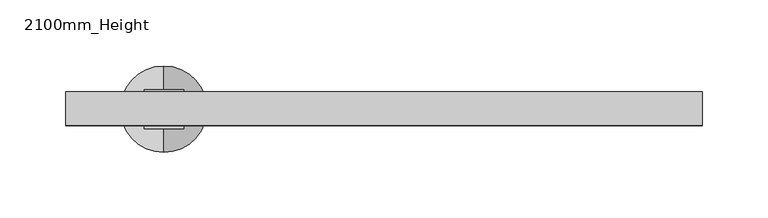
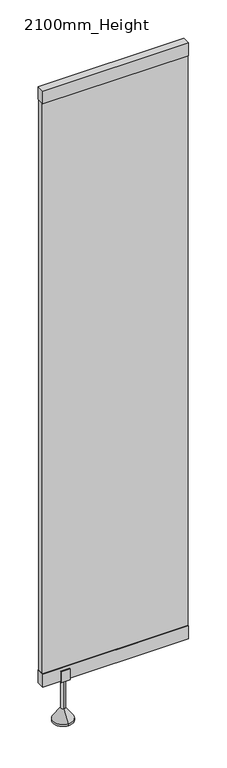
"""IFC4 building model written with IfcOpenShell, lengths in millimetres: flow terminal geometry, Plumbing_Fixtures_Toile_Cubicle_Extension_Panel : 2100mm_Height."""

from ifc_helpers import new_model, si_unit, frame, origin, place, context, project, spatial, polyline, circle_curve, outline, extrude, source, transform, mapped, element, save
from ifc_brep_helpers import plane_surface, cylinder_surface, revolved_surface, advanced_brep


def flow_terminal_2100mm_height_0595ce71(model_context):
    return source(origin(), model_context, "Body", "SolidModel", [
        extrude(outline(polyline([(1785.0, 145.0), (1785.0, 185.0), (1790.0, 185.0), (1790.0, 150.0), (1810.0, 150.0), (1810.0, 185.0), (1815.0, 185.0), (1815.0, 145.0), (1785.0, 145.0)])), frame((457.9310706, 0.0, 0.0), z_axis=(1.0, 0.0, 0.0), x_axis=(0.0, 1.0, 0.0)), (0.0, 0.0, 1.0), 30.0),
        advanced_brep(
        [(472.9310706, 1832.9430575, 7.2339182), (472.9310706, 1807.5, 43.57037), (472.9310706, 1792.5, 43.57037), (472.9310706, 1767.0569425, 7.2339182), (472.9310706, 1832.9430575, 0.0), (472.9310706, 1767.0569425, 0.0), (472.9310706, 1800.0, 0.0), (472.9310706, 1807.5, 145.0), (472.9310706, 1800.0, 145.0), (472.9310706, 1792.5, 145.0)],
        [
            (0, 1),
            (1, 2, circle_curve(frame((472.9310706, 1800.0, 43.57037), z_axis=(0.0, 0.0, -1.0), x_axis=(0.0, -1.0, 0.0)), 7.5)),
            (2, 3),
            (3, 0, circle_curve(frame((472.9310706, 1800.0, 7.2339182), z_axis=(0.0, 0.0, 1.0), x_axis=(0.0, -1.0, 0.0)), 32.9430575)),
            (2, 1, circle_curve(frame((472.9310706, 1800.0, 43.57037), z_axis=(0.0, 0.0, -1.0), x_axis=(0.0, -1.0, 0.0)), 7.5)),
            (0, 3, circle_curve(frame((472.9310706, 1800.0, 7.2339182), z_axis=(0.0, 0.0, 1.0), x_axis=(0.0, -1.0, 0.0)), 32.9430575)),
            (4, 0),
            (3, 5),
            (5, 4, circle_curve(frame((472.9310706, 1800.0, 0.0), z_axis=(0.0, 0.0, 1.0), x_axis=(0.0, -1.0, 0.0)), 32.9430575)),
            (4, 5, circle_curve(frame((472.9310706, 1800.0, 0.0), z_axis=(0.0, 0.0, 1.0), x_axis=(0.0, -1.0, 0.0)), 32.9430575)),
            (6, 4),
            (5, 6),
            (7, 8),
            (8, 9),
            (9, 7, circle_curve(frame((472.9310706, 1800.0, 145.0), z_axis=(0.0, 0.0, 1.0), x_axis=(0.0, -1.0, 0.0)), 7.5)),
            (7, 9, circle_curve(frame((472.9310706, 1800.0, 145.0), z_axis=(0.0, 0.0, 1.0), x_axis=(0.0, -1.0, 0.0)), 7.5)),
            (1, 7),
            (9, 2),
        ],
        [
            revolved_surface(polyline([(472.9310706, 1792.5, 43.57037), (472.9310706, 1767.0569425, 7.2339182)]), (472.9310706, 1800.0, -60.0), (0.0, 0.0, -1.0)),
            cylinder_surface(frame((472.9310706, 1800.0, -60.0), z_axis=(0.0, 0.0, -1.0), x_axis=(0.0, -1.0, 0.0)), 32.9430575),
            plane_surface(frame((472.9310706, 1800.0, 0.0), z_axis=(0.0, 0.0, -1.0), x_axis=(0.0, -1.0, 0.0))),
            plane_surface(frame((472.9310706, 1800.0, 145.0), z_axis=(0.0, 0.0, 1.0), x_axis=(0.0, -1.0, 0.0))),
            cylinder_surface(frame((472.9310706, 1800.0, -60.0), z_axis=(0.0, 0.0, -1.0), x_axis=(0.0, -1.0, 0.0)), 7.5),
        ],
        [
            (0, [[1, 2, 3, 4]]),
            (0, [[-3, 5, -1, 6]]),
            (1, [[7, -4, 8, 9]]),
            (1, [[-8, -6, -7, 10]]),
            (2, [[11, -9, 12]]),
            (2, [[-12, -10, -11]]),
            (3, [[13, 14, 15]]),
            (3, [[-14, -13, 16]]),
            (4, [[17, -15, 18, -2]]),
            (4, [[-18, -16, -17, -5]]),
        ],
    ),
        extrude(outline(polyline([(883.8310705, 1813.0), (883.8310705, 1787.2947936), (397.9310706, 1787.2947936), (397.9310706, 1813.0), (883.8310705, 1813.0)])), frame((0.0, 0.0, 2205.0), z_axis=(0.0, 0.0, 1.0), x_axis=(1.0, 0.0, 0.0)), (0.0, 0.0, 1.0), 45.0),
        extrude(outline(polyline([(883.8310705, 1813.0), (883.8310705, 1787.2947936), (397.9310706, 1787.2947936), (397.9310706, 1813.0), (883.8310705, 1813.0)])), frame((0.0, 0.0, 150.0), z_axis=(0.0, 0.0, 1.0), x_axis=(1.0, 0.0, 0.0)), (0.0, 0.0, 1.0), 45.0),
        extrude(outline(polyline([(397.9310706, 1810.0), (883.8310705, 1810.0), (883.8310705, 1790.0), (397.9310706, 1790.0), (397.9310706, 1810.0)])), frame((0.0, 0.0, 195.0), z_axis=(0.0, 0.0, 1.0), x_axis=(1.0, 0.0, 0.0)), (0.0, 0.0, 1.0), 2010.0),
    ])


if __name__ == "__main__":
    model = new_model("IFC4")
    model_context = context("Model", 3, world=origin())
    ifc_project = project(units=[si_unit("LENGTHUNIT", "METRE", prefix="MILLI")], contexts=[model_context])
    site = spatial("IfcSite", under=ifc_project)
    building = spatial("IfcBuilding", under=site)
    placement = place(None, origin())
    flow_terminal_2100mm_height_shape = flow_terminal_2100mm_height_0595ce71(model_context)
    element("IfcFlowTerminal", 1, ObjectType="Plumbing_Fixtures_Toile_Cubicle_Extension_Panel : 2100mm_Height", at=placement, inside=building, context=model_context, shape_type="MappedRepresentation", body=[
        mapped(flow_terminal_2100mm_height_shape, transform((0.0, 0.0, 0.0), x_axis=(1.0, 0.0, 0.0), y_axis=(0.0, 1.0, 0.0), z_axis=(0.0, 0.0, 1.0))),
    ])
    save(model, "model.ifc")
